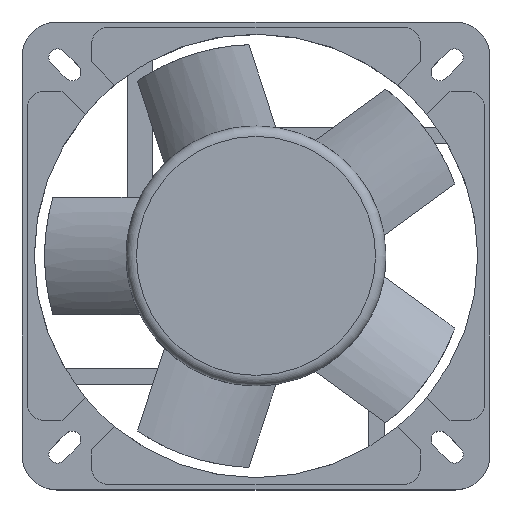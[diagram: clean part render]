
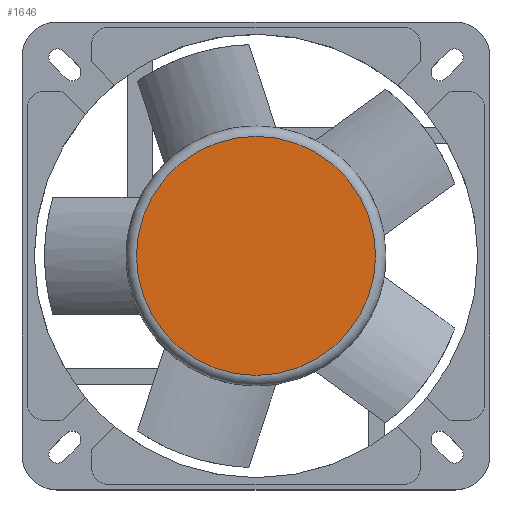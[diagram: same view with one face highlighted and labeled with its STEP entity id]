
A CAD part, top view. The second image highlights one B-rep face of the part: STEP entity #1646.
In plain terms, the highlighted planar face has unit normal (0, 0, 1).
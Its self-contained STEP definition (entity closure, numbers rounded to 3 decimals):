
#1646=ADVANCED_FACE('',(#3508),#3510,.T.);
#3508=FACE_BOUND('',#3509,.T.);
#3509=EDGE_LOOP('',(#4609));
#3510=PLANE('',#3511);
#3511=AXIS2_PLACEMENT_3D('',#3512,#3513,#3514);
#3512=CARTESIAN_POINT('',(0.,0.,33.));
#3513=DIRECTION('',(0.,-0.,1.));
#3514=DIRECTION('',(1.,0.,0.));
#4609=ORIENTED_EDGE('',*,*,#5134,.T.);
#5134=EDGE_CURVE('',#6013,#6013,#6014,.T.);
#6013=VERTEX_POINT('',#8606);
#6014=CIRCLE('',#8607,34.5);
#8606=CARTESIAN_POINT('',(34.5,0.,33.));
#8607=AXIS2_PLACEMENT_3D('',#8608,#8609,#8610);
#8608=CARTESIAN_POINT('',(0.,0.,33.));
#8609=DIRECTION('',(0.,-0.,1.));
#8610=DIRECTION('',(1.,0.,0.));
